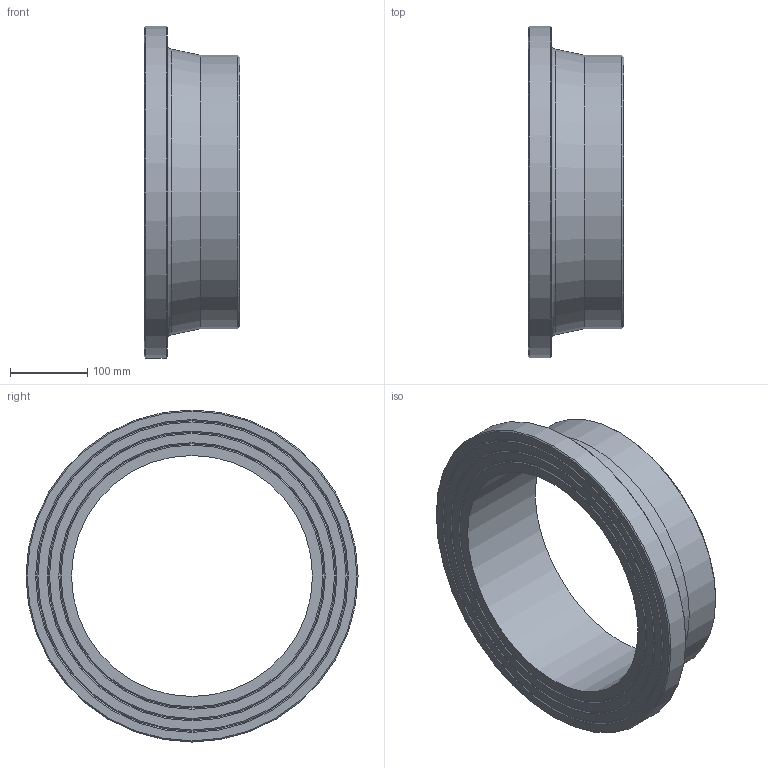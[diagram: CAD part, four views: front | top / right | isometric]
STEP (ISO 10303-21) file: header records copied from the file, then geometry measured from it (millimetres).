
FILE_DESCRIPTION(/* description */ ('Unknown'),/* implementation_level */ '2;1');
FILE_NAME(/* name */ 'CCP355B',/* time_stamp */ '2022-04-04T17:05:15+02:00',/* author */ ('Unknown'),/* organization */ ('Unknown'),/* preprocessor_version */ 'ST-DEVELOPER v18.1',/* originating_system */ 'Solid Edge',/* authorisation */ 'Unknown');
FILE_SCHEMA (('AUTOMOTIVE_DESIGN {1 0 10303 214 3 1 1}'));
Length unit declared in the file: millimetre
Products named in the file (1): CCP355B
Bounding box: 124 x 431 x 431 mm (x, y, z)
Volume: 4364698.6 mm3; surface area: 394085.5 mm2
Topology: 1 solids, 1 shells, 20 faces, 35 edges, 21 vertices
Faces by surface type: cone 10, plane 6, cylinder 3, torus 1
Full cylindrical faces by diameter (mm): 312.8 x1, 355 x1, 431 x1
Entity records: 438 total; most frequent: DIRECTION 82, CARTESIAN_POINT 61, AXIS2_PLACEMENT_3D 41, ORIENTED_EDGE 40, EDGE_LOOP 40, FACE_BOUND 40, EDGE_CURVE 20, VERTEX_POINT 20
